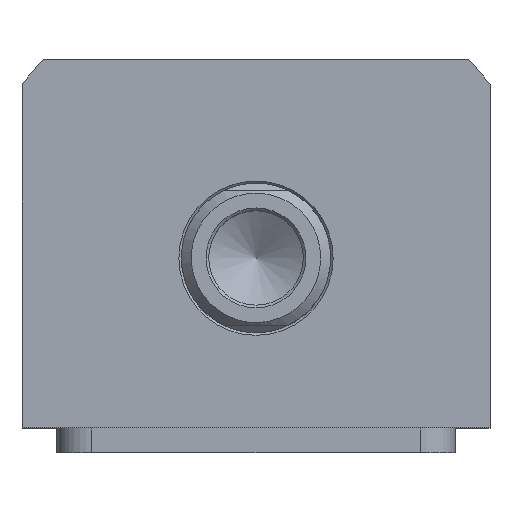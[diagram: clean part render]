
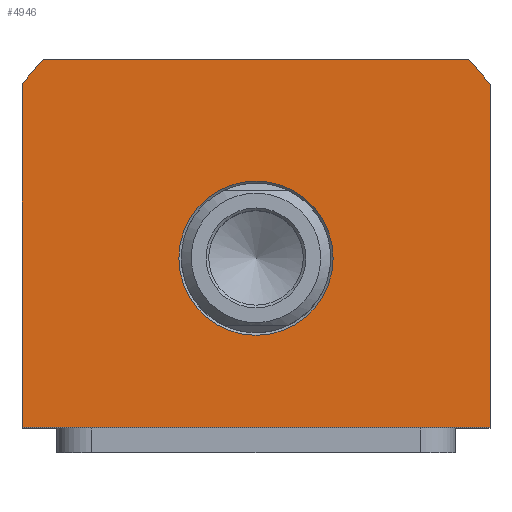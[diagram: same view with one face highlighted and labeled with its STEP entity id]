
A CAD part, top view. The second image highlights one B-rep face of the part: STEP entity #4946.
In plain terms, the highlighted planar face has unit normal (0, 0, 1).
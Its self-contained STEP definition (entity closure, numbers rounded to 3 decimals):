
#2394=PLANE('',#10973);
#3081=LINE('',#15648,#3911);
#3100=LINE('',#16323,#3930);
#3113=LINE('',#16356,#3943);
#3126=LINE('',#16414,#3956);
#3911=VECTOR('',#11418,1.);
#3930=VECTOR('',#11551,1.);
#3943=VECTOR('',#11572,1.);
#3956=VECTOR('',#11629,1.);
#4946=ADVANCED_FACE('',(#5537,#5538),#2394,.T.);
#5370=CIRCLE('',#10893,15.5);
#5412=CIRCLE('',#10962,58.5);
#5414=CIRCLE('',#10967,58.5);
#5537=FACE_BOUND('',#5757,.T.);
#5538=FACE_BOUND('',#5758,.T.);
#5757=EDGE_LOOP('',(#6522));
#5758=EDGE_LOOP('',(#6523,#6524,#6525,#6526,#6527,#6528));
#6522=ORIENTED_EDGE('',*,*,#9486,.T.);
#6523=ORIENTED_EDGE('',*,*,#9571,.T.);
#6524=ORIENTED_EDGE('',*,*,#9479,.T.);
#6525=ORIENTED_EDGE('',*,*,#9609,.T.);
#6526=ORIENTED_EDGE('',*,*,#9587,.T.);
#6527=ORIENTED_EDGE('',*,*,#9601,.T.);
#6528=ORIENTED_EDGE('',*,*,#9614,.T.);
#8628=VERTEX_POINT('',#15618);
#8643=VERTEX_POINT('',#15647);
#8650=VERTEX_POINT('',#15664);
#8727=VERTEX_POINT('',#16319);
#8744=VERTEX_POINT('',#16355);
#8745=VERTEX_POINT('',#16357);
#8752=VERTEX_POINT('',#16381);
#9479=EDGE_CURVE('',#8628,#8643,#3081,.T.);
#9486=EDGE_CURVE('',#8650,#8650,#5370,.T.);
#9571=EDGE_CURVE('',#8727,#8628,#3100,.T.);
#9587=EDGE_CURVE('',#8745,#8744,#3113,.T.);
#9601=EDGE_CURVE('',#8744,#8752,#5412,.T.);
#9609=EDGE_CURVE('',#8643,#8745,#5414,.T.);
#9614=EDGE_CURVE('',#8752,#8727,#3126,.T.);
#10893=AXIS2_PLACEMENT_3D('',#15663,#11431,#11432);
#10962=AXIS2_PLACEMENT_3D('',#16382,#11602,#11603);
#10967=AXIS2_PLACEMENT_3D('',#16405,#11617,#11618);
#10973=AXIS2_PLACEMENT_3D('',#16427,#11639,#11640);
#11418=DIRECTION('',(0.,1.,0.));
#11431=DIRECTION('',(0.,0.,-1.));
#11432=DIRECTION('',(1.,0.,0.));
#11551=DIRECTION('',(1.,0.,0.));
#11572=DIRECTION('',(-1.,0.,0.));
#11602=DIRECTION('',(0.,0.,1.));
#11603=DIRECTION('',(1.,0.,0.));
#11617=DIRECTION('',(0.,0.,1.));
#11618=DIRECTION('',(1.,0.,0.));
#11629=DIRECTION('',(0.,-1.,0.));
#11639=DIRECTION('',(0.,0.,1.));
#11640=DIRECTION('',(-1.,0.,0.));
#15618=CARTESIAN_POINT('',(47.,-34.,50.));
#15647=CARTESIAN_POINT('',(47.,34.832,50.));
#15648=CARTESIAN_POINT('',(47.,34.832,50.));
#15663=CARTESIAN_POINT('',(0.,0.,50.));
#15664=CARTESIAN_POINT('',(15.5,0.,50.));
#16319=CARTESIAN_POINT('',(-47.,-34.,50.));
#16323=CARTESIAN_POINT('',(47.,-34.,50.));
#16355=CARTESIAN_POINT('',(-42.688,40.,50.));
#16356=CARTESIAN_POINT('',(-42.688,40.,50.));
#16357=CARTESIAN_POINT('',(42.688,40.,50.));
#16381=CARTESIAN_POINT('',(-47.,34.832,50.));
#16382=CARTESIAN_POINT('',(0.,0.,50.));
#16405=CARTESIAN_POINT('',(0.,0.,50.));
#16414=CARTESIAN_POINT('',(-47.,-34.,50.));
#16427=CARTESIAN_POINT('',(0.,0.,50.));
